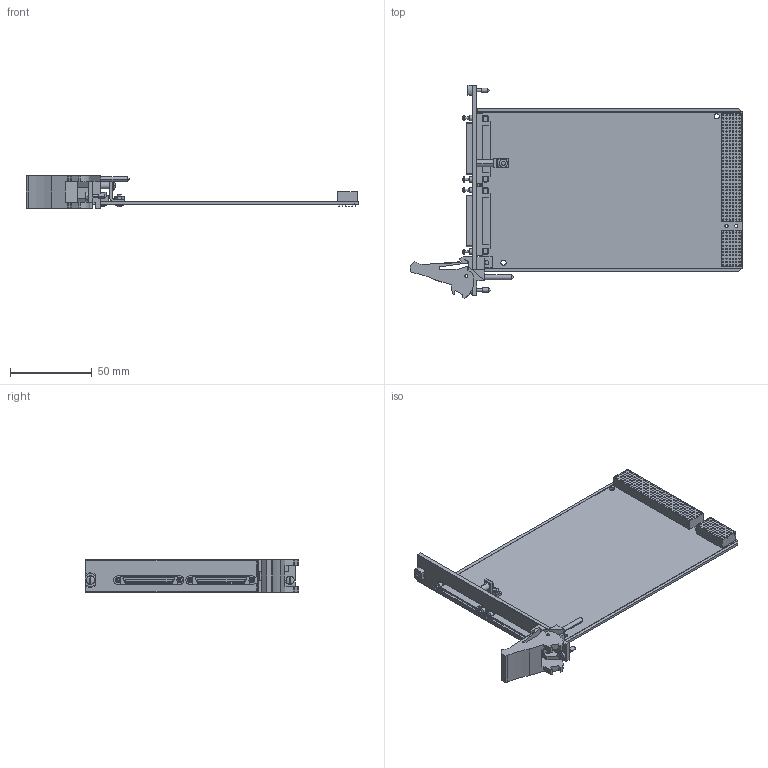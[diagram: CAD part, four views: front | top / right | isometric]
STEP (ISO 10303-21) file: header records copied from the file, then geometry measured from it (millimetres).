
FILE_DESCRIPTION((''),'2;1');
FILE_NAME('CUSTOMER_MODEL_SW0001','2013-09-11T',('jbuhisan'),(''),'PRO/ENGINEER BY PARAMETRIC TECHNOLOGY CORPORATION, 2011490','PRO/ENGINEER BY PARAMETRIC TECHNOLOGY CORPORATION, 2011490','');
FILE_SCHEMA(('CONFIG_CONTROL_DESIGN'));
Length unit declared in the file: inch
Products named in the file (1): CUSTOMER_MODEL_SW0001
Bounding box: 203.58 x 130.62 x 20.02 mm (x, y, z)
Volume: 49577.9 mm3; surface area: 52217.5 mm2
Topology: 1 solids, 1 shells, 2294 faces, 5050 edges, 3310 vertices
Faces by surface type: cylinder 1270, plane 950, cone 34, bspline 20, sphere 10, torus 10
Entity records: 65782 total; most frequent: CARTESIAN_POINT 12571, DIRECTION 12117, ORIENTED_EDGE 10052, EDGE_CURVE 5026, AXIS2_PLACEMENT_3D 4928, VERTEX_POINT 3329, EDGE_LOOP 2918, CIRCLE 2654
